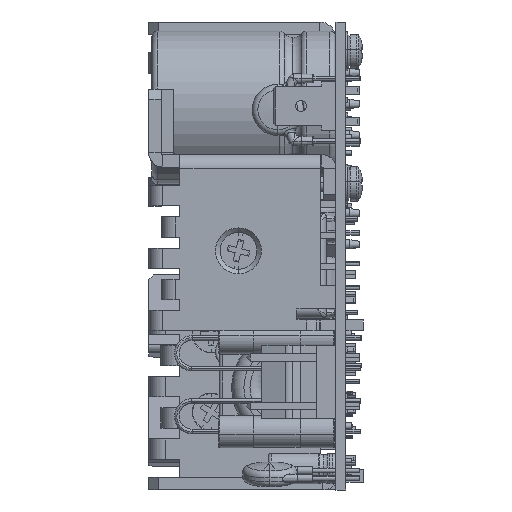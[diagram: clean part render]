
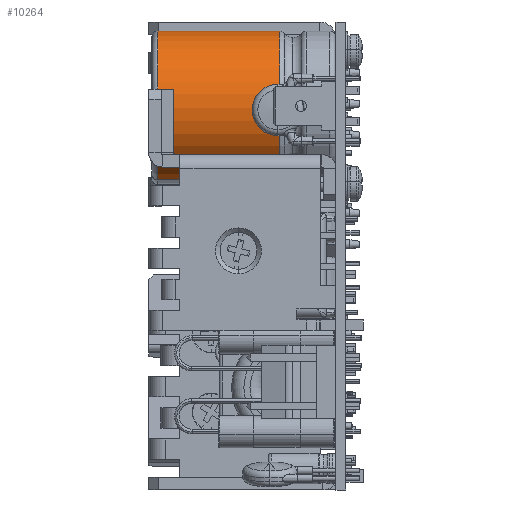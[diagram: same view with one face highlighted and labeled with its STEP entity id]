
A CAD part, left-side view. The second image highlights one B-rep face of the part: STEP entity #10264.
In plain terms, the highlighted cylindrical face has radius 12.5 mm (diameter 25 mm), a partial arc.
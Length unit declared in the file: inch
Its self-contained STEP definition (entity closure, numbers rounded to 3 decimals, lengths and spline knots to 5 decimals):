
#10264 = ADVANCED_FACE ( 'NONE', ( #90296 ), #90302, .T. ) ;
#26741 = ORIENTED_EDGE ( 'NONE', *, *, #40493, .F. ) ;
#26743 = ORIENTED_EDGE ( 'NONE', *, *, #40477, .T. ) ;
#26745 = ORIENTED_EDGE ( 'NONE', *, *, #40491, .T. ) ;
#26747 = ORIENTED_EDGE ( 'NONE', *, *, #40474, .F. ) ;
#33564 = EDGE_LOOP ( 'NONE', ( #26741, #26743, #26745, #26747 ) ) ;
#40474 = EDGE_CURVE ( 'NONE', #41432, #41433, #66975, .T. ) ;
#40477 = EDGE_CURVE ( 'NONE', #41421, #41431, #66985, .T. ) ;
#40491 = EDGE_CURVE ( 'NONE', #41431, #41433, #66999, .T. ) ;
#40493 = EDGE_CURVE ( 'NONE', #41421, #41432, #66995, .T. ) ;
#41421 = VERTEX_POINT ( 'NONE', #72686 ) ;
#41431 = VERTEX_POINT ( 'NONE', #72692 ) ;
#41432 = VERTEX_POINT ( 'NONE', #72693 ) ;
#41433 = VERTEX_POINT ( 'NONE', #72694 ) ;
#51051 = AXIS2_PLACEMENT_3D ( 'NONE', #70727, #70728, #70729 ) ;
#51057 = AXIS2_PLACEMENT_3D ( 'NONE', #70736, #70737, #70738 ) ;
#66975 = CIRCLE ( 'NONE', #51051, 0.49213 ) ;
#66985 = CIRCLE ( 'NONE', #51057, 0.49213 ) ;
#66995 = LINE ( 'NONE', #70782, #67004 ) ;
#66999 = LINE ( 'NONE', #70772, #67001 ) ;
#67001 = VECTOR ( 'NONE', #70773, 39.37008 ) ;
#67004 = VECTOR ( 'NONE', #70777, 39.37008 ) ;
#70727 = CARTESIAN_POINT ( 'NONE',  ( 0., 0.36171, 0. ) ) ;
#70728 = DIRECTION ( 'NONE',  ( 0., -1., 0. ) ) ;
#70729 = DIRECTION ( 'NONE',  ( 0., 0., -1. ) ) ;
#70736 = CARTESIAN_POINT ( 'NONE',  ( 0., 1.14173, 0. ) ) ;
#70737 = DIRECTION ( 'NONE',  ( 0., -1., 0. ) ) ;
#70738 = DIRECTION ( 'NONE',  ( 0., 0., -1. ) ) ;
#70772 = CARTESIAN_POINT ( 'NONE',  ( 0., 0., -0.49213 ) ) ;
#70773 = DIRECTION ( 'NONE',  ( 0., -1., 0. ) ) ;
#70777 = DIRECTION ( 'NONE',  ( 0., -1., 0. ) ) ;
#70782 = CARTESIAN_POINT ( 'NONE',  ( 0., 0., 0.49213 ) ) ;
#72686 = CARTESIAN_POINT ( 'NONE',  ( 0., 1.14173, 0.49213 ) ) ;
#72692 = CARTESIAN_POINT ( 'NONE',  ( 0., 1.14173, -0.49213 ) ) ;
#72693 = CARTESIAN_POINT ( 'NONE',  ( 0., 0.36171, 0.49213 ) ) ;
#72694 = CARTESIAN_POINT ( 'NONE',  ( 0., 0.36171, -0.49213 ) ) ;
#84481 = AXIS2_PLACEMENT_3D ( 'NONE', #89598, #89599, #89608 ) ;
#89598 = CARTESIAN_POINT ( 'NONE',  ( 0., 0., 0. ) ) ;
#89599 = DIRECTION ( 'NONE',  ( 0., -1., 0. ) ) ;
#89608 = DIRECTION ( 'NONE',  ( 0., 0., -1. ) ) ;
#90296 = FACE_OUTER_BOUND ( 'NONE', #33564, .T. ) ;
#90302 = CYLINDRICAL_SURFACE ( 'NONE', #84481, 0.49213 ) ;
